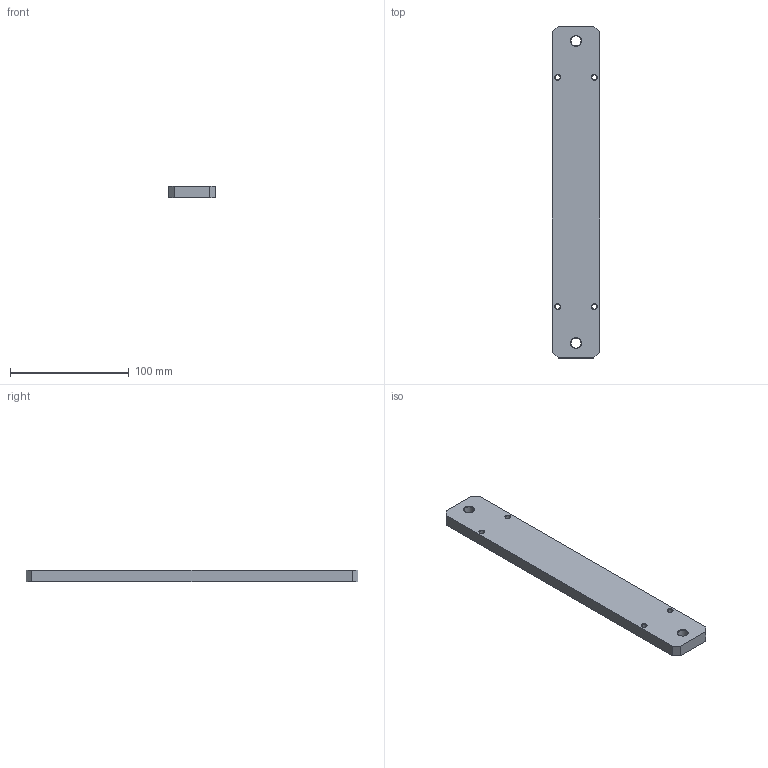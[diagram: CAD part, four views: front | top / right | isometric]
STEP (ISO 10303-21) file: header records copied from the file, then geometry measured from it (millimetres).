
FILE_DESCRIPTION((''),'2;1');
FILE_NAME('C:\Users\rvetsch\Desktop\Kundendaten\H304586_Montageplatte.stp','2016-04-14T15:54:45',('rvetsch'),(''),'Autodesk Inventor 2013','Autodesk Inventor 2013','');
FILE_SCHEMA(('CONFIG_CONTROL_DESIGN'));
Length unit declared in the file: millimetre
Products named in the file (1): H304586_Montageplatte
Bounding box: 40 x 280 x 10 mm (x, y, z)
Volume: 109810.5 mm3; surface area: 29255.2 mm2
Topology: 1 solids, 1 shells, 28 faces, 72 edges, 46 vertices
Faces by surface type: cone 12, plane 10, cylinder 6
Full cylindrical faces by diameter (mm): 4.134 x4, 8.5 x2
Entity records: 793 total; most frequent: DIRECTION 130, CARTESIAN_POINT 117, ORIENTED_EDGE 96, EDGE_LOOP 58, AXIS2_PLACEMENT_3D 53, EDGE_CURVE 48, VERTEX_POINT 40, FACE_BOUND 30
